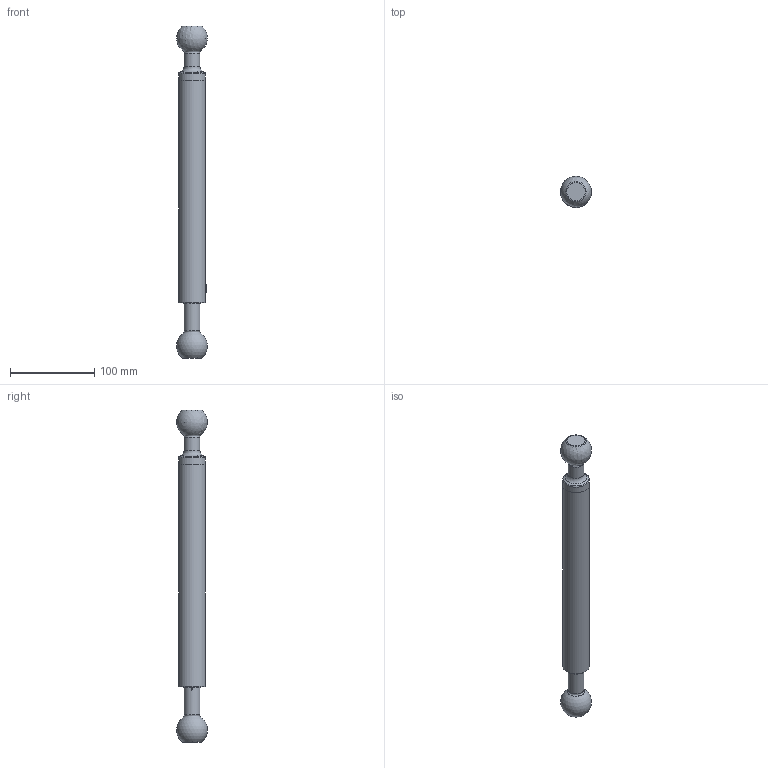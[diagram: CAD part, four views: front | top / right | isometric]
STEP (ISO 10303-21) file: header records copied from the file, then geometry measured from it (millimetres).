
FILE_DESCRIPTION(/* description */ (''),/* implementation_level */ '2;1');
FILE_NAME(/* name */ 'C:\Users\owner\Desktop\HDPL-POSTS_3D_stp\HDPL-TPOST8IN-BL.stp',/* time_stamp */ '2017-10-02T09:49:06-04:00',/* author */ ('owner'),/* organization */ (''),/* preprocessor_version */ 'ST-DEVELOPER v16.5',/* originating_system */ 'Autodesk Inventor 2017',/* authorisation */ '');
FILE_SCHEMA (('CONFIG_CONTROL_DESIGN'));
Length unit declared in the file: inch
Products named in the file (6): PL-HDTPOST8IN-BL; 60072; 60065; 60067; #92775; 60076
Assembly tree (5 placements, depth 2):
  PL-HDTPOST8IN-BL
    60072
    60065
    60067
    #92775
    60076
Bounding box: 36.58 x 36.59 x 393.41 mm (x, y, z)
Volume: 275603 mm3; surface area: 76523.8 mm2
Topology: 5 solids, 5 shells, 948 faces, 2546 edges, 1680 vertices
Faces by surface type: bspline 410, plane 388, cylinder 108, torus 24, cone 16, sphere 2
Full cylindrical faces by diameter (mm): 7 x1, 8.382 x1, 9.131 x1, 10.033 x1, 10.693 x1, 10.744 x1, 18.923 x2, 19.05 x1, 19.446 x1, 19.482 x1, 22.123 x1, 22.187 x1, 22.225 x2, 31.75 x2
Entity records: 40286 total; most frequent: CARTESIAN_POINT 19336, ORIENTED_EDGE 4868, DIRECTION 3147, EDGE_CURVE 2434, VERTEX_POINT 1638, LINE 1163, VECTOR 1163, EDGE_LOOP 1088
